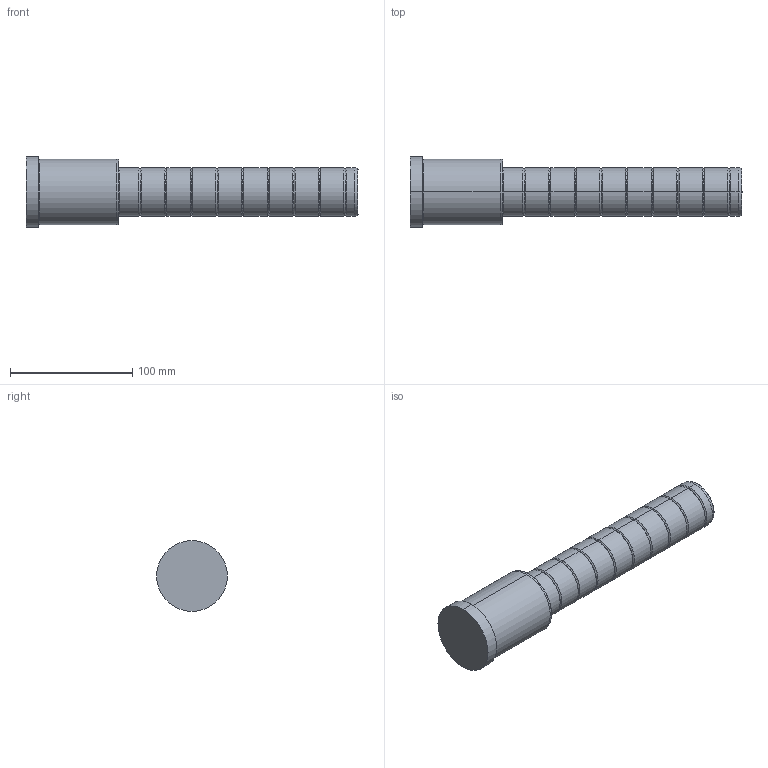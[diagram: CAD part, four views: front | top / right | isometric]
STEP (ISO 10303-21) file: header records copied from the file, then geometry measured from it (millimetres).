
FILE_DESCRIPTION( ( 'STEP AP203' ), '1' );
FILE_NAME( 'C:/Projects/D02 - 40x76x196.step', '2003-01-04T14:13:15', ( ' ' ), ( ' ' ), 'XStep 1.0', ' ', ' ' );
FILE_SCHEMA( ( 'CONFIG_CONTROL_DESIGN' ) );
Length unit declared in the file: metre
Products named in the file (1): 1
Bounding box: 272 x 58 x 58 mm (x, y, z)
Volume: 422067 mm3; surface area: 43920.5 mm2
Topology: 1 solids, 1 shells, 78 faces, 154 edges, 82 vertices
Faces by surface type: bspline 46, revolution 32
Entity records: 2513 total; most frequent: CARTESIAN_POINT 1117, ORIENTED_EDGE 308, DIRECTION 230, EDGE_CURVE 154, AXIS2_PLACEMENT_3D 83, EDGE_LOOP 82, VERTEX_POINT 82, CIRCLE 82
